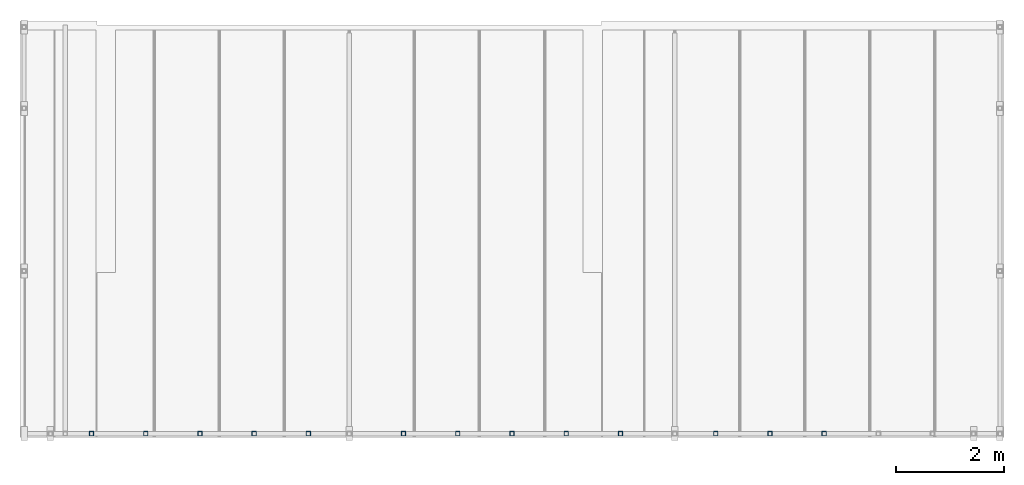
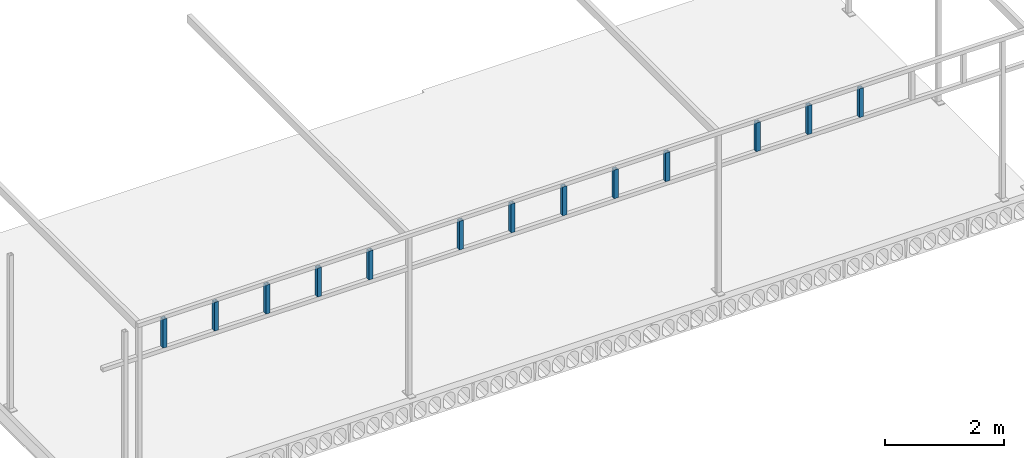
# One storey, part 4 of 20: 13 beams.
"""IFC2X3 building model written with IfcOpenShell, lengths in millimetres."""

from ifc_helpers import new_model, entity, si_unit, converted_unit, derived_unit, direction, frame, origin_with_axes, place, context, subcontext, project, spatial, faceted_brep, material, type_object, element, save


model = new_model("IFC2X3")

# Units and contexts
model_context = context("Model", 3, precision=0.01, world=frame((0.0, 4.29681676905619e-09, 0.0)), true_north=direction((4.01073788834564e-13, 1.0)))
plan_context = context("Plan", 3, precision=0.01, world=frame((0.0, 4.29681676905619e-09, 0.0)), true_north=direction((4.01073788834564e-13, 1.0)))
body_context = subcontext(model_context, "Body", "Model", "MODEL_VIEW")
ifc_project = project(units=[converted_unit("PLANEANGLEUNIT", "DEGREE", entity("IfcPositiveLengthMeasure", 0.0174532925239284), si_unit("PLANEANGLEUNIT", "RADIAN"), dimensions=[0, 0, 0, 0, 0, 0, 0]), si_unit("AREAUNIT", "SQUARE_METRE"), si_unit("LENGTHUNIT", "METRE", prefix="MILLI"), si_unit("MASSUNIT", "GRAM", prefix="KILO"), si_unit("POWERUNIT", "WATT"), si_unit("PRESSUREUNIT", "PASCAL", prefix="KILO"), si_unit("FORCEUNIT", "NEWTON", prefix="KILO"), si_unit("ELECTRICVOLTAGEUNIT", "VOLT"), si_unit("ELECTRICCURRENTUNIT", "AMPERE"), si_unit("THERMODYNAMICTEMPERATUREUNIT", "DEGREE_CELSIUS"), si_unit("TIMEUNIT", "SECOND"), si_unit("VOLUMEUNIT", "CUBIC_METRE"), derived_unit("LINEARVELOCITYUNIT", [(si_unit("LENGTHUNIT", "METRE"), 1), (si_unit("TIMEUNIT", "SECOND"), -1)]), derived_unit("VOLUMETRICFLOWRATEUNIT", [(si_unit("VOLUMEUNIT", "CUBIC_METRE"), 1), (si_unit("TIMEUNIT", "SECOND"), -1)]), derived_unit("THERMALTRANSMITTANCEUNIT", [(si_unit("POWERUNIT", "WATT"), 1), (si_unit("THERMODYNAMICTEMPERATUREUNIT", "KELVIN"), -1), (si_unit("AREAUNIT", "SQUARE_METRE"), -1)]), derived_unit("SOUNDPRESSUREUNIT", [(si_unit("PRESSUREUNIT", "PASCAL"), 1)])], contexts=[model_context, plan_context])

# Site, building, storey
site_placement = place(None, frame((0.0, -4.29681676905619e-09, 0.0), z_axis=(0.0, 0.0, 1.0), x_axis=(1.0, 0.0, 0.0)))
site = spatial("IfcSite", under=ifc_project, at=site_placement, Name="Gardermoen", CompositionType="ELEMENT")
building_placement = place(site_placement, frame((0.0, 4.29681676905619e-09, 0.0), z_axis=(0.0, 0.0, 1.0), x_axis=(1.0, 0.0, 0.0)))
building = spatial("IfcBuilding", under=site, at=building_placement, Name="TS", CompositionType="ELEMENT")
storey_placement = place(building_placement, origin_with_axes())
storey = spatial("IfcBuildingStorey", under=building, at=storey_placement, Name="D", CompositionType="ELEMENT", Elevation=0.0)

# Beams
ifc_material = material(Name="STEEL/S355")
beam_type = type_object("IfcBeamType", Name="RHS80*5", PredefinedType="NOTDEFINED")
for number, where, z_axis, x_axis in (
    (1, (609756.994834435, 397810.985130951, 207170.000492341), (-0.999999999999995, -9.99999902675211e-08, 0.0), (0.0, 0.0, -1.0)),
    (2, (608756.994834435, 397810.985130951, 207170.000492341), (-0.999999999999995, -9.99999902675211e-08, 0.0), (0.0, 0.0, -1.0)),
    (3, (607756.994834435, 397810.985130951, 207170.000492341), (-0.999999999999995, -9.99999902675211e-08, 0.0), (0.0, 0.0, -1.0)),
    (4, (605999.994834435, 397810.985130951, 207170.000492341), (-0.999999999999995, -9.99999902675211e-08, 0.0), (0.0, 0.0, -1.0)),
    (5, (604999.994834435, 397810.985130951, 207170.000492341), (-0.999999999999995, -9.99999902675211e-08, 0.0), (0.0, 0.0, -1.0)),
    (6, (603999.994834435, 397810.985130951, 207170.000492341), (-0.999999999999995, -9.99999902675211e-08, 0.0), (0.0, 0.0, -1.0)),
    (7, (602999.994834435, 397810.985130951, 207170.000492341), (-0.999999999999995, -9.99999902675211e-08, 0.0), (0.0, 0.0, -1.0)),
    (8, (601999.994834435, 397810.985130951, 207170.000492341), (-0.999999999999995, -9.99999902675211e-08, 0.0), (0.0, 0.0, -1.0)),
    (9, (600243.994834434, 397810.985130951, 207170.000492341), (-0.999999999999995, -9.99999902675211e-08, 0.0), (0.0, 0.0, -1.0)),
    (10, (599243.994834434, 397810.985130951, 207170.000492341), (-0.999999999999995, -9.99999902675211e-08, 0.0), (0.0, 0.0, -1.0)),
    (11, (598243.994834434, 397810.985130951, 207170.000492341), (-0.999999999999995, -9.99999902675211e-08, 0.0), (0.0, 0.0, -1.0)),
    (12, (597243.994834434, 397810.985130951, 207170.000492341), (-0.999999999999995, -9.99999902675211e-08, 0.0), (0.0, 0.0, -1.0)),
    (13, (596243.994834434, 397810.985130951, 207170.000492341), (-0.999999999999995, -9.99999902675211e-08, 0.0), (0.0, 0.0, -1.0)),
):
    element("IfcBeam", number, at=place(storey_placement, frame(where, z_axis=z_axis, x_axis=x_axis)), inside=storey, type_object=beam_type, material=ifc_material, Name="STÅLBJELKE", ObjectType="RHS80*5", context=body_context, shape_type="Brep", body=[
        faceted_brep([(0.0, 35.0, -35.0), (0.0, -35.0, -35.0), (590.000773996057, -35.0, -35.0), (590.000773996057, 35.0, -35.0), (0.0, -35.0, 35.0), (590.000773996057, -35.0, 35.0), (0.0, 35.0, 35.0), (590.000773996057, 35.0, 35.0), (0.0, 40.0, -40.0), (0.0, 40.0, 40.0), (590.000773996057, 40.0, 40.0), (590.000773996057, 40.0, -40.0), (0.0, -40.0, 40.0), (590.000773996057, -40.0, 40.0), (0.0, -40.0, -40.0), (590.000773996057, -40.0, -40.0)], [[[0, 1, 2, 3]], [[1, 4, 5, 2]], [[4, 6, 7, 5]], [[6, 0, 3, 7]], [[8, 9, 10, 11]], [[9, 12, 13, 10]], [[12, 14, 15, 13]], [[14, 8, 11, 15]], [[13, 15, 11, 10], [5, 7, 3, 2]], [[14, 12, 9, 8], [6, 4, 1, 0]]]),
    ])

save(model, "model.ifc")
